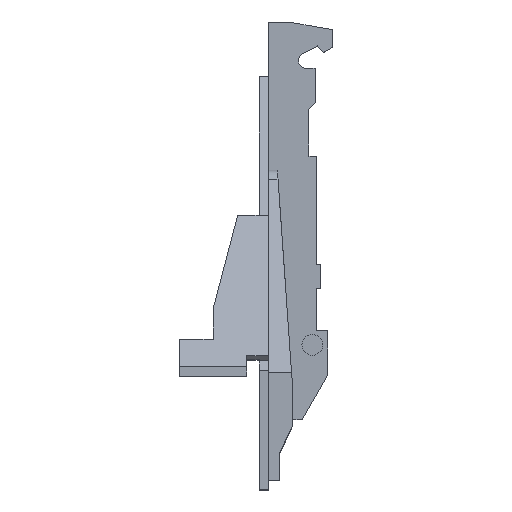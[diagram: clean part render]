
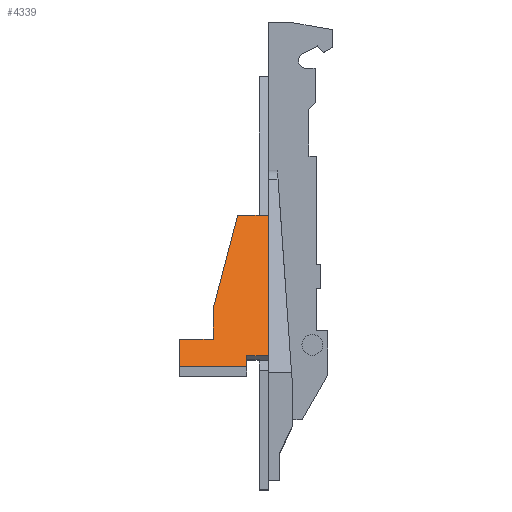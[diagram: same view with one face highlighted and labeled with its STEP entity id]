
A CAD part, top view. The second image highlights one B-rep face of the part: STEP entity #4339.
In plain terms, the highlighted planar face has unit normal (0, 0.432, 0.902).
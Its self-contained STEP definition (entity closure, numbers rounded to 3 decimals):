
#44 = VECTOR ( 'NONE', #4516, 1000. ) ;
#45 = LINE ( 'NONE', #4517, #44 ) ;
#113 = VECTOR ( 'NONE', #4614, 1000. ) ;
#130 = LINE ( 'NONE', #4618, #113 ) ;
#232 = VECTOR ( 'NONE', #4681, 1000. ) ;
#248 = VECTOR ( 'NONE', #3360, 1000. ) ;
#249 = LINE ( 'NONE', #2885, #232 ) ;
#255 = LINE ( 'NONE', #3363, #248 ) ;
#328 = VECTOR ( 'NONE', #3284, 1000. ) ;
#333 = LINE ( 'NONE', #3281, #328 ) ;
#557 = ORIENTED_EDGE ( 'NONE', *, *, #3846, .T. ) ;
#571 = ORIENTED_EDGE ( 'NONE', *, *, #3578, .T. ) ;
#572 = ORIENTED_EDGE ( 'NONE', *, *, #3432, .T. ) ;
#573 = ORIENTED_EDGE ( 'NONE', *, *, #3674, .T. ) ;
#574 = ORIENTED_EDGE ( 'NONE', *, *, #3713, .F. ) ;
#575 = ORIENTED_EDGE ( 'NONE', *, *, #3497, .F. ) ;
#576 = ORIENTED_EDGE ( 'NONE', *, *, #3625, .T. ) ;
#577 = ORIENTED_EDGE ( 'NONE', *, *, #3485, .F. ) ;
#578 = ORIENTED_EDGE ( 'NONE', *, *, #3812, .F. ) ;
#1231 = EDGE_LOOP ( 'NONE', ( #557, #571, #572, #573, #574, #575, #576, #577, #578 ) ) ;
#1652 = LINE ( 'NONE', #2548, #1657 ) ;
#1657 = VECTOR ( 'NONE', #2531, 1000. ) ;
#1709 = LINE ( 'NONE', #2444, #1710 ) ;
#1710 = VECTOR ( 'NONE', #2443, 1000. ) ;
#2026 = FACE_OUTER_BOUND ( 'NONE', #1231, .T. ) ;
#2175 = DIRECTION ( 'NONE',  ( 0., 0.902, -0.432 ) ) ;
#2176 = DIRECTION ( 'NONE',  ( 0., -0.432, -0.902 ) ) ;
#2183 = CARTESIAN_POINT ( 'NONE',  ( 1.5, 35.853, 20.068 ) ) ;
#2188 = PLANE ( 'NONE',  #4019 ) ;
#2443 = DIRECTION ( 'NONE',  ( -0.229, -0.878, 0.421 ) ) ;
#2444 = CARTESIAN_POINT ( 'NONE',  ( -7.5, 20.522, 27.414 ) ) ;
#2531 = DIRECTION ( 'NONE',  ( 1., 0., 0. ) ) ;
#2548 = CARTESIAN_POINT ( 'NONE',  ( 1.5, 35.853, 20.068 ) ) ;
#2578 = DIRECTION ( 'NONE',  ( -1., 0., 0. ) ) ;
#2581 = CARTESIAN_POINT ( 'NONE',  ( -2., 11., 31.976 ) ) ;
#2885 = CARTESIAN_POINT ( 'NONE',  ( -2., 11., 31.976 ) ) ;
#2943 = CARTESIAN_POINT ( 'NONE',  ( -13., 11., 31.976 ) ) ;
#2946 = CARTESIAN_POINT ( 'NONE',  ( -2., 11., 31.976 ) ) ;
#2953 = CARTESIAN_POINT ( 'NONE',  ( -7.5, 15.562, 29.79 ) ) ;
#2954 = CARTESIAN_POINT ( 'NONE',  ( -2., 12.857, 31.086 ) ) ;
#2955 = CARTESIAN_POINT ( 'NONE',  ( -3.5, 35.853, 20.068 ) ) ;
#2956 = CARTESIAN_POINT ( 'NONE',  ( -7.5, 20.522, 27.414 ) ) ;
#2958 = CARTESIAN_POINT ( 'NONE',  ( -13., 15.562, 29.79 ) ) ;
#3123 = CARTESIAN_POINT ( 'NONE',  ( 1.5, 35.853, 20.068 ) ) ;
#3139 = CARTESIAN_POINT ( 'NONE',  ( 1.5, 12.857, 31.086 ) ) ;
#3153 = VERTEX_POINT ( 'NONE', #2958 ) ;
#3155 = VERTEX_POINT ( 'NONE', #2956 ) ;
#3156 = VERTEX_POINT ( 'NONE', #2955 ) ;
#3157 = VERTEX_POINT ( 'NONE', #2954 ) ;
#3158 = VERTEX_POINT ( 'NONE', #2953 ) ;
#3165 = VERTEX_POINT ( 'NONE', #2946 ) ;
#3168 = VERTEX_POINT ( 'NONE', #2943 ) ;
#3228 = VERTEX_POINT ( 'NONE', #3139 ) ;
#3230 = VERTEX_POINT ( 'NONE', #3123 ) ;
#3281 = CARTESIAN_POINT ( 'NONE',  ( -13., 15.562, 29.79 ) ) ;
#3284 = DIRECTION ( 'NONE',  ( -1., 0., 0. ) ) ;
#3360 = DIRECTION ( 'NONE',  ( 0., -0.902, 0.432 ) ) ;
#3363 = CARTESIAN_POINT ( 'NONE',  ( 1.5, 35.853, 20.068 ) ) ;
#3422 = VECTOR ( 'NONE', #4397, 1000. ) ;
#3423 = LINE ( 'NONE', #4399, #3422 ) ;
#3432 = EDGE_CURVE ( 'NONE', #3158, #3153, #333, .T. ) ;
#3485 = EDGE_CURVE ( 'NONE', #3230, #3228, #255, .T. ) ;
#3497 = EDGE_CURVE ( 'NONE', #3157, #3165, #249, .T. ) ;
#3578 = EDGE_CURVE ( 'NONE', #3155, #3158, #130, .T. ) ;
#3625 = EDGE_CURVE ( 'NONE', #3157, #3228, #45, .T. ) ;
#3674 = EDGE_CURVE ( 'NONE', #3153, #3168, #3423, .T. ) ;
#3713 = EDGE_CURVE ( 'NONE', #3165, #3168, #4108, .T. ) ;
#3812 = EDGE_CURVE ( 'NONE', #3156, #3230, #1652, .T. ) ;
#3846 = EDGE_CURVE ( 'NONE', #3156, #3155, #1709, .T. ) ;
#4019 = AXIS2_PLACEMENT_3D ( 'NONE', #2183, #2176, #2175 ) ;
#4108 = LINE ( 'NONE', #2581, #4109 ) ;
#4109 = VECTOR ( 'NONE', #2578, 1000. ) ;
#4339 = ADVANCED_FACE ( 'NONE', ( #2026 ), #2188, .F. ) ;
#4397 = DIRECTION ( 'NONE',  ( 0., -0.902, 0.432 ) ) ;
#4399 = CARTESIAN_POINT ( 'NONE',  ( -13., 35.853, 20.068 ) ) ;
#4516 = DIRECTION ( 'NONE',  ( 1., 0., 0. ) ) ;
#4517 = CARTESIAN_POINT ( 'NONE',  ( 1.5, 12.857, 31.086 ) ) ;
#4614 = DIRECTION ( 'NONE',  ( 0., -0.902, 0.432 ) ) ;
#4618 = CARTESIAN_POINT ( 'NONE',  ( -7.5, 15.562, 29.79 ) ) ;
#4681 = DIRECTION ( 'NONE',  ( 0., -0.902, 0.432 ) ) ;
